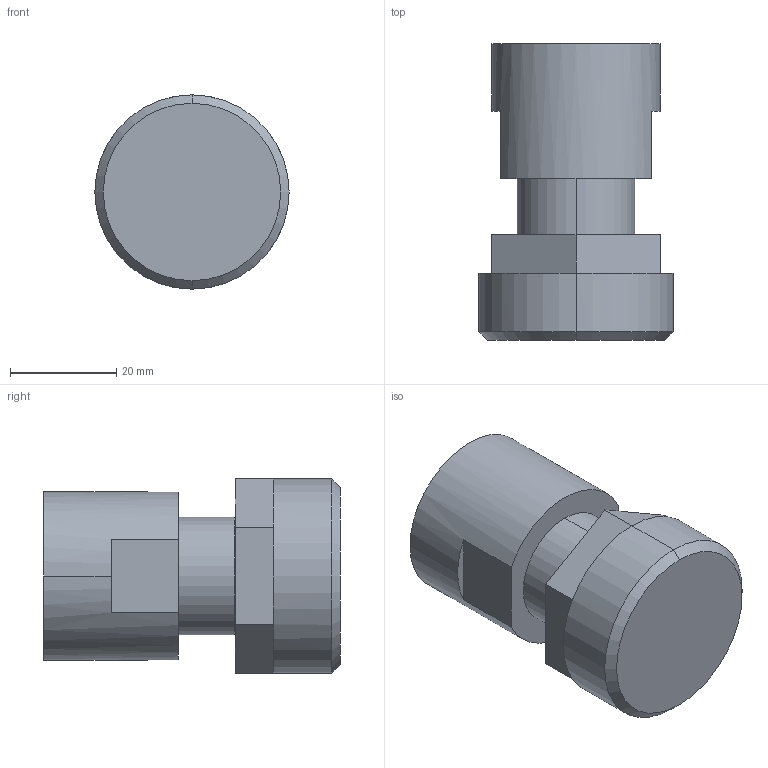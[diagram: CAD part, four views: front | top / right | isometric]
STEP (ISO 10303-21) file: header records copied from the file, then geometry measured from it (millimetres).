
FILE_DESCRIPTION (( 'STEP AP214' ), '1' );
FILE_NAME ('08-fnpt-with-top-mount-adapter.STEP', '2012-11-27T22:53:11', ( '' ), ( '' ), 'SwSTEP 2.0', 'SolidWorks 2012', '' );
FILE_SCHEMA (( 'AUTOMOTIVE_DESIGN' ));
Length unit declared in the file: inch
Products named in the file (1): 08-fnpt-with-top-mount-adapter
Bounding box: 36.6 x 55.89 x 36.66 mm (x, y, z)
Volume: 38423.9 mm3; surface area: 9358.8 mm2
Topology: 1 solids, 1 shells, 41 faces, 90 edges, 54 vertices
Faces by surface type: plane 27, cone 8, cylinder 6
Entity records: 1405 total; most frequent: DIRECTION 212, CARTESIAN_POINT 186, ORIENTED_EDGE 180, EDGE_CURVE 90, AXIS2_PLACEMENT_3D 80, VERTEX_POINT 54, LINE 52, VECTOR 52
